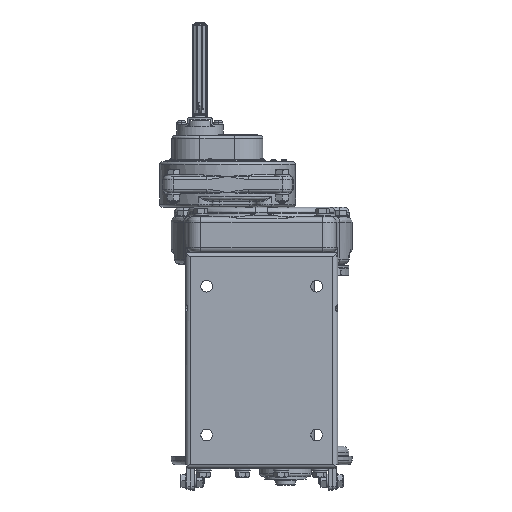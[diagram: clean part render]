
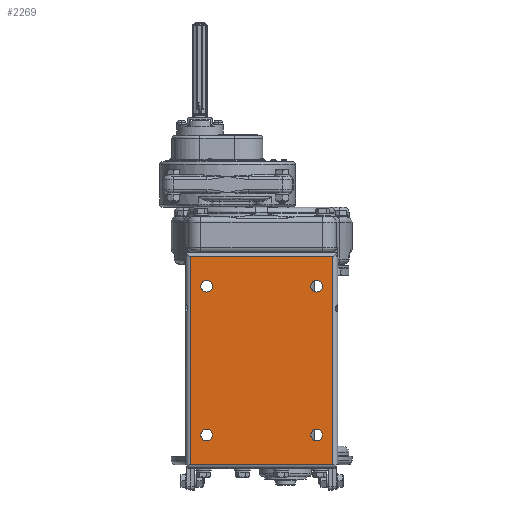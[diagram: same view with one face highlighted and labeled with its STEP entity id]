
A CAD part, front view. The second image highlights one B-rep face of the part: STEP entity #2269.
In plain terms, the highlighted planar face has unit normal (0, -1, 0).
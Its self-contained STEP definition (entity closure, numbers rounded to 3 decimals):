
#2269=ADVANCED_FACE('',(#25057,#25058,#25059,#25060,#25061),#25056,.F.);
#25056=PLANE('',#53085);
#25057=FACE_OUTER_BOUND('',#53086,.T.);
#25058=FACE_BOUND('',#53087,.T.);
#25059=FACE_BOUND('',#53088,.T.);
#25060=FACE_BOUND('',#53089,.T.);
#25061=FACE_BOUND('',#53090,.T.);
#53082=CARTESIAN_POINT('',(-171.432,-278.182,-566.035));
#53083=DIRECTION('',(0.,1.,0.));
#53084=DIRECTION('',(1.,0.,0.));
#53085=AXIS2_PLACEMENT_3D('',#53082,#53083,#53084);
#53086=EDGE_LOOP('',(#72277,#72278,#72279,#72280));
#53087=EDGE_LOOP('',(#72281,#72282,#72283));
#53088=EDGE_LOOP('',(#72284,#72285,#72286));
#53089=EDGE_LOOP('',(#72287,#72288,#72289));
#53090=EDGE_LOOP('',(#72290,#72291,#72292));
#72277=ORIENTED_EDGE('',*,*,#83778,.T.);
#72278=ORIENTED_EDGE('',*,*,#83779,.T.);
#72279=ORIENTED_EDGE('',*,*,#83780,.F.);
#72280=ORIENTED_EDGE('',*,*,#83781,.F.);
#72281=ORIENTED_EDGE('',*,*,#83782,.T.);
#72282=ORIENTED_EDGE('',*,*,#83783,.T.);
#72283=ORIENTED_EDGE('',*,*,#83784,.T.);
#72284=ORIENTED_EDGE('',*,*,#83785,.T.);
#72285=ORIENTED_EDGE('',*,*,#83786,.T.);
#72286=ORIENTED_EDGE('',*,*,#83787,.T.);
#72287=ORIENTED_EDGE('',*,*,#83788,.T.);
#72288=ORIENTED_EDGE('',*,*,#83789,.T.);
#72289=ORIENTED_EDGE('',*,*,#83790,.T.);
#72290=ORIENTED_EDGE('',*,*,#83791,.T.);
#72291=ORIENTED_EDGE('',*,*,#83792,.T.);
#72292=ORIENTED_EDGE('',*,*,#83793,.T.);
#83778=EDGE_CURVE('',#127172,#127173,#127174,.T.);
#83779=EDGE_CURVE('',#127173,#127180,#127181,.T.);
#83780=EDGE_CURVE('',#127187,#127180,#127188,.T.);
#83781=EDGE_CURVE('',#127172,#127187,#127194,.T.);
#83782=EDGE_CURVE('',#127200,#127201,#127202,.T.);
#83783=EDGE_CURVE('',#127201,#127208,#127209,.T.);
#83784=EDGE_CURVE('',#127208,#127200,#127215,.T.);
#83785=EDGE_CURVE('',#127221,#127222,#127223,.T.);
#83786=EDGE_CURVE('',#127222,#127229,#127230,.T.);
#83787=EDGE_CURVE('',#127229,#127221,#127236,.T.);
#83788=EDGE_CURVE('',#127242,#127243,#127244,.T.);
#83789=EDGE_CURVE('',#127243,#127250,#127251,.T.);
#83790=EDGE_CURVE('',#127250,#127242,#127257,.T.);
#83791=EDGE_CURVE('',#127263,#127264,#127265,.T.);
#83792=EDGE_CURVE('',#127264,#127271,#127272,.T.);
#83793=EDGE_CURVE('',#127271,#127263,#127278,.T.);
#127172=VERTEX_POINT('',#168906);
#127173=VERTEX_POINT('',#168907);
#127174=LINE('',#168908,#168909);
#127180=VERTEX_POINT('',#168911);
#127181=LINE('',#168912,#168913);
#127187=VERTEX_POINT('',#168915);
#127188=LINE('',#168916,#168917);
#127194=LINE('',#168919,#168920);
#127200=VERTEX_POINT('',#168922);
#127201=VERTEX_POINT('',#168923);
#127202=CIRCLE('',#168927,9.);
#127208=VERTEX_POINT('',#168928);
#127209=CIRCLE('',#168932,9.);
#127215=CIRCLE('',#168936,9.);
#127221=VERTEX_POINT('',#168937);
#127222=VERTEX_POINT('',#168938);
#127223=CIRCLE('',#168942,9.);
#127229=VERTEX_POINT('',#168943);
#127230=CIRCLE('',#168947,9.);
#127236=CIRCLE('',#168951,9.);
#127242=VERTEX_POINT('',#168952);
#127243=VERTEX_POINT('',#168953);
#127244=CIRCLE('',#168957,9.);
#127250=VERTEX_POINT('',#168958);
#127251=CIRCLE('',#168962,9.);
#127257=CIRCLE('',#168966,9.);
#127263=VERTEX_POINT('',#168967);
#127264=VERTEX_POINT('',#168968);
#127265=CIRCLE('',#168972,9.);
#127271=VERTEX_POINT('',#168973);
#127272=CIRCLE('',#168977,9.);
#127278=CIRCLE('',#168981,9.);
#168906=CARTESIAN_POINT('',(57.568,-278.182,-898.035));
#168907=CARTESIAN_POINT('',(57.568,-278.182,-576.035));
#168908=CARTESIAN_POINT('',(57.568,-278.182,-898.035));
#168909=VECTOR('',#168910,322.);
#168910=DIRECTION('',(0.,0.,1.));
#168911=CARTESIAN_POINT('',(-161.432,-278.182,-576.035));
#168912=CARTESIAN_POINT('',(57.568,-278.182,-576.035));
#168913=VECTOR('',#168914,219.);
#168914=DIRECTION('',(-1.,0.,0.));
#168915=CARTESIAN_POINT('',(-161.432,-278.182,-898.035));
#168916=CARTESIAN_POINT('',(-161.432,-278.182,-898.035));
#168917=VECTOR('',#168918,322.);
#168918=DIRECTION('',(0.,0.,1.));
#168919=CARTESIAN_POINT('',(57.568,-278.182,-898.035));
#168920=VECTOR('',#168921,219.);
#168921=DIRECTION('',(-1.,0.,0.));
#168922=CARTESIAN_POINT('',(42.068,-278.182,-852.035));
#168923=CARTESIAN_POINT('',(33.068,-278.182,-861.035));
#168924=CARTESIAN_POINT('',(33.068,-278.182,-852.035));
#168925=DIRECTION('',(0.,1.,0.));
#168926=DIRECTION('',(1.,0.,0.));
#168927=AXIS2_PLACEMENT_3D('',#168924,#168925,#168926);
#168928=CARTESIAN_POINT('',(33.067,-278.182,-843.035));
#168929=CARTESIAN_POINT('',(33.068,-278.182,-852.035));
#168930=DIRECTION('',(0.,1.,0.));
#168931=DIRECTION('',(1.,0.,0.));
#168932=AXIS2_PLACEMENT_3D('',#168929,#168930,#168931);
#168933=CARTESIAN_POINT('',(33.068,-278.182,-852.035));
#168934=DIRECTION('',(0.,1.,0.));
#168935=DIRECTION('',(1.,0.,0.));
#168936=AXIS2_PLACEMENT_3D('',#168933,#168934,#168935);
#168937=CARTESIAN_POINT('',(-127.932,-278.182,-852.035));
#168938=CARTESIAN_POINT('',(-136.932,-278.182,-861.035));
#168939=CARTESIAN_POINT('',(-136.932,-278.182,-852.035));
#168940=DIRECTION('',(0.,1.,0.));
#168941=DIRECTION('',(1.,0.,0.));
#168942=AXIS2_PLACEMENT_3D('',#168939,#168940,#168941);
#168943=CARTESIAN_POINT('',(-136.933,-278.182,-843.035));
#168944=CARTESIAN_POINT('',(-136.932,-278.182,-852.035));
#168945=DIRECTION('',(0.,1.,0.));
#168946=DIRECTION('',(1.,0.,0.));
#168947=AXIS2_PLACEMENT_3D('',#168944,#168945,#168946);
#168948=CARTESIAN_POINT('',(-136.932,-278.182,-852.035));
#168949=DIRECTION('',(0.,1.,0.));
#168950=DIRECTION('',(1.,0.,0.));
#168951=AXIS2_PLACEMENT_3D('',#168948,#168949,#168950);
#168952=CARTESIAN_POINT('',(-127.932,-278.182,-622.035));
#168953=CARTESIAN_POINT('',(-136.932,-278.182,-631.035));
#168954=CARTESIAN_POINT('',(-136.932,-278.182,-622.035));
#168955=DIRECTION('',(0.,1.,0.));
#168956=DIRECTION('',(1.,0.,0.));
#168957=AXIS2_PLACEMENT_3D('',#168954,#168955,#168956);
#168958=CARTESIAN_POINT('',(-136.933,-278.182,-613.035));
#168959=CARTESIAN_POINT('',(-136.932,-278.182,-622.035));
#168960=DIRECTION('',(0.,1.,0.));
#168961=DIRECTION('',(1.,0.,0.));
#168962=AXIS2_PLACEMENT_3D('',#168959,#168960,#168961);
#168963=CARTESIAN_POINT('',(-136.932,-278.182,-622.035));
#168964=DIRECTION('',(0.,1.,0.));
#168965=DIRECTION('',(1.,0.,0.));
#168966=AXIS2_PLACEMENT_3D('',#168963,#168964,#168965);
#168967=CARTESIAN_POINT('',(42.068,-278.182,-622.035));
#168968=CARTESIAN_POINT('',(33.068,-278.182,-631.035));
#168969=CARTESIAN_POINT('',(33.068,-278.182,-622.035));
#168970=DIRECTION('',(0.,1.,0.));
#168971=DIRECTION('',(1.,0.,0.));
#168972=AXIS2_PLACEMENT_3D('',#168969,#168970,#168971);
#168973=CARTESIAN_POINT('',(33.067,-278.182,-613.035));
#168974=CARTESIAN_POINT('',(33.068,-278.182,-622.035));
#168975=DIRECTION('',(0.,1.,0.));
#168976=DIRECTION('',(1.,0.,0.));
#168977=AXIS2_PLACEMENT_3D('',#168974,#168975,#168976);
#168978=CARTESIAN_POINT('',(33.068,-278.182,-622.035));
#168979=DIRECTION('',(0.,1.,0.));
#168980=DIRECTION('',(1.,0.,0.));
#168981=AXIS2_PLACEMENT_3D('',#168978,#168979,#168980);
